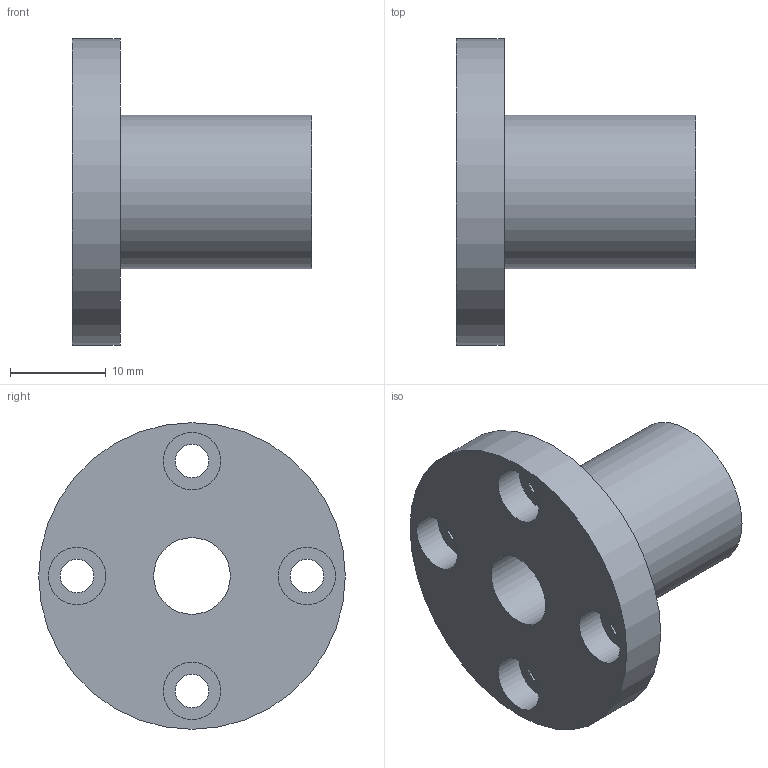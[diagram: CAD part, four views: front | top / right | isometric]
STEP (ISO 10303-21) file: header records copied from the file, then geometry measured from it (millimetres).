
FILE_DESCRIPTION( ( 'STEP AP203' ), '1' );
FILE_NAME( 'p:/temp/worker_5/temp/exporttempdir_1488_688_3ddhq/format_0/LMEF8UU.stp', '2020-05-07T03:18:59', ( 'License CC BY-ND 4.0' ), ( 'CADENAS' ), ' ', 'PARTsolutions', ' ' );
FILE_SCHEMA( ( 'CONFIG_CONTROL_DESIGN' ) );
Length unit declared in the file: millimetre
Products named in the file (1): _LMEF8UU
Bounding box: 25 x 32 x 32 mm (x, y, z)
Volume: 6362.1 mm3; surface area: 3884.6 mm2
Topology: 1 solids, 1 shells, 18 faces, 34 edges, 23 vertices
Faces by surface type: cylinder 11, plane 7
Full cylindrical faces by diameter (mm): 3.5 x4, 6 x4, 8 x1, 16 x1, 32 x1
Entity records: 468 total; most frequent: DIRECTION 82, CARTESIAN_POINT 63, EDGE_LOOP 44, ORIENTED_EDGE 44, AXIS2_PLACEMENT_3D 41, FACE_OUTER_BOUND 29, EDGE_CURVE 22, VERTEX_POINT 22
